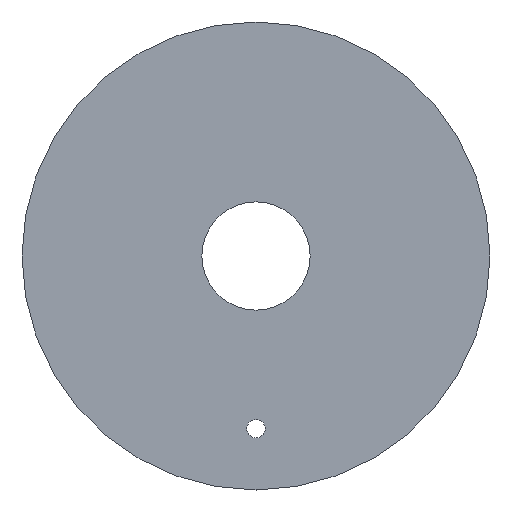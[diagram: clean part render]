
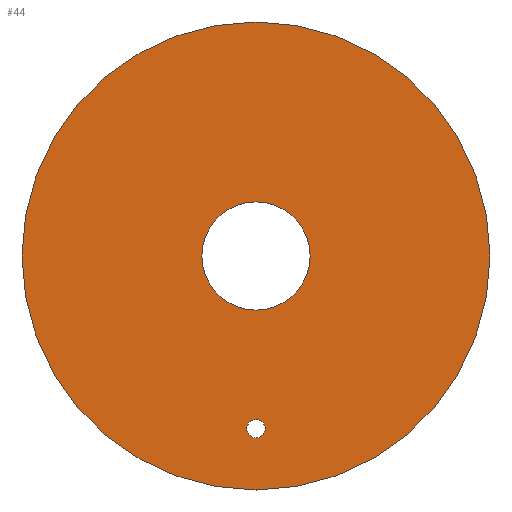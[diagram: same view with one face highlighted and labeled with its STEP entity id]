
A CAD part, left-side view. The second image highlights one B-rep face of the part: STEP entity #44.
In plain terms, the highlighted planar face has unit normal (-1, 0, 0).
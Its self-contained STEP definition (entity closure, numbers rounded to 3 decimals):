
#29=FACE_BOUND('',#76,.F.);
#30=FACE_BOUND('',#77,.F.);
#33=PLANE('',#294);
#44=ADVANCED_FACE('',(#29,#30,#59),#33,.T.);
#59=FACE_OUTER_BOUND('',#78,.F.);
#76=EDGE_LOOP('',(#117,#118));
#77=EDGE_LOOP('',(#119,#120));
#78=EDGE_LOOP('',(#121,#122));
#117=ORIENTED_EDGE('',*,*,#198,.T.);
#118=ORIENTED_EDGE('',*,*,#196,.T.);
#119=ORIENTED_EDGE('',*,*,#194,.T.);
#120=ORIENTED_EDGE('',*,*,#193,.T.);
#121=ORIENTED_EDGE('',*,*,#212,.F.);
#122=ORIENTED_EDGE('',*,*,#202,.F.);
#193=EDGE_CURVE('',#258,#257,#225,.T.);
#194=EDGE_CURVE('',#257,#258,#226,.T.);
#196=EDGE_CURVE('',#254,#253,#228,.T.);
#198=EDGE_CURVE('',#253,#254,#230,.T.);
#202=EDGE_CURVE('',#246,#245,#234,.T.);
#212=EDGE_CURVE('',#245,#246,#240,.T.);
#225=CIRCLE('',#269,4.);
#226=CIRCLE('',#270,4.);
#228=CIRCLE('',#272,23.5);
#230=CIRCLE('',#274,23.5);
#234=CIRCLE('',#278,101.6);
#240=CIRCLE('',#284,101.6);
#245=VERTEX_POINT('',#394);
#246=VERTEX_POINT('',#395);
#253=VERTEX_POINT('',#402);
#254=VERTEX_POINT('',#403);
#257=VERTEX_POINT('',#406);
#258=VERTEX_POINT('',#407);
#269=AXIS2_PLACEMENT_3D('',#416,#313,#314);
#270=AXIS2_PLACEMENT_3D('',#417,#315,#316);
#272=AXIS2_PLACEMENT_3D('',#419,#319,#320);
#274=AXIS2_PLACEMENT_3D('',#421,#323,#324);
#278=AXIS2_PLACEMENT_3D('',#425,#331,#332);
#284=AXIS2_PLACEMENT_3D('',#435,#347,#348);
#294=AXIS2_PLACEMENT_3D('',#451,#373,#374);
#313=DIRECTION('',(-1.,0.,0.));
#314=DIRECTION('',(0.,1.,0.));
#315=DIRECTION('',(-1.,0.,0.));
#316=DIRECTION('',(0.,-1.,0.));
#319=DIRECTION('',(-1.,0.,0.));
#320=DIRECTION('',(0.,1.,0.));
#323=DIRECTION('',(-1.,0.,0.));
#324=DIRECTION('',(0.,-1.,0.));
#331=DIRECTION('',(-1.,0.,0.));
#332=DIRECTION('',(0.,-1.,0.));
#347=DIRECTION('',(-1.,0.,0.));
#348=DIRECTION('',(0.,1.,0.));
#373=DIRECTION('',(-1.,0.,0.));
#374=DIRECTION('',(0.,0.,1.));
#394=CARTESIAN_POINT('',(949.375,520.852,456.874));
#395=CARTESIAN_POINT('',(949.375,317.652,456.874));
#402=CARTESIAN_POINT('',(949.375,395.752,456.874));
#403=CARTESIAN_POINT('',(949.375,442.752,456.874));
#406=CARTESIAN_POINT('',(949.375,415.252,381.874));
#407=CARTESIAN_POINT('',(949.375,423.252,381.874));
#416=CARTESIAN_POINT('',(949.375,419.252,381.874));
#417=CARTESIAN_POINT('',(949.375,419.252,381.874));
#419=CARTESIAN_POINT('',(949.375,419.252,456.874));
#421=CARTESIAN_POINT('',(949.375,419.252,456.874));
#425=CARTESIAN_POINT('',(949.375,419.252,456.874));
#435=CARTESIAN_POINT('',(949.375,419.252,456.874));
#451=CARTESIAN_POINT('',(949.375,315.62,353.242));
